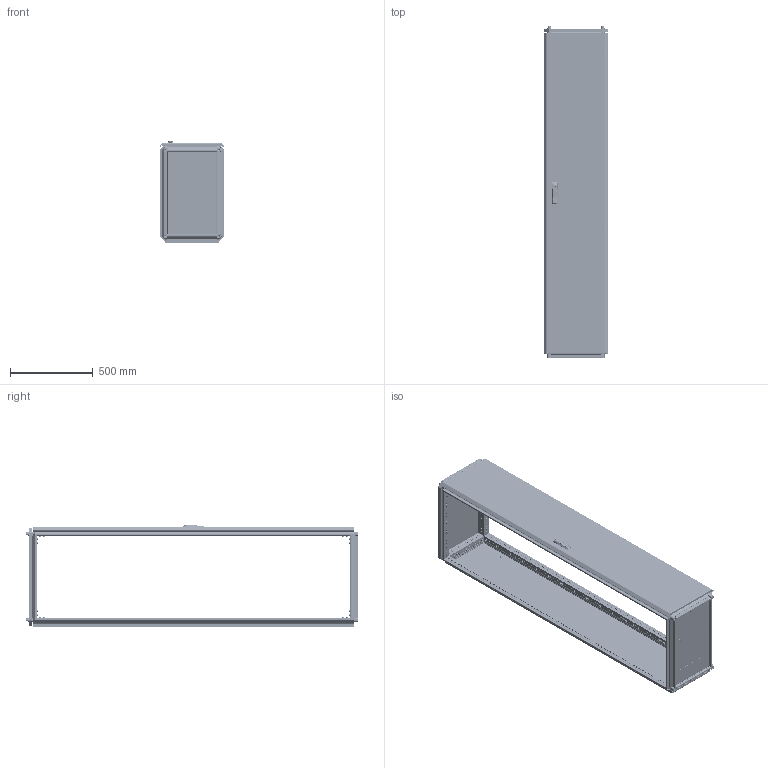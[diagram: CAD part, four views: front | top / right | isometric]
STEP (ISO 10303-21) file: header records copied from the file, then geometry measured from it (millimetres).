
FILE_DESCRIPTION (( 'STEP AP203' ), '1' );
FILE_NAME ('MA1.000.040620.10.00 AleSta2046 Øêàô AleSta 400õ600õ2000.STEP', '2024-08-23T08:22:21', ( '' ), ( '' ), 'SwSTEP 2.0', 'SolidWorks 2021', '' );
FILE_SCHEMA (( 'CONFIG_CONTROL_DESIGN' ));
Length unit declared in the file: millimetre
Products named in the file (50): MA1.102.060620.00.00 AleSta-VG2000 Ñòîéêè âåðòèêàëüíûå, Â=2000ìì  (4øò)_400å600; 7380-2 ISO Âèíòû ñ ïîëóêðóãëîé ãîëîâêîé ñ ôëàíöåì ñ âíóòðåííèì øåñòèãðàííèêîì Ì4õ10; Îñü ïåòëè 4õ52_‚¨­â A.M4x0,5x40 ƒŽ‘’ 11644-75; MA1.200.060620.11.01 Ïîëîòíî çàäíåé ïàíåëè 2000õ600_2000å400; MA1.000.040620.10.00 AleSta2046 Øêàô AleSta 400õ600õ2000; Âèíò ñàìîíàðåçàþùèé ñ ïîòàéíîé ãîëîâêîé Ì5x14 DIN 7500 M TORX, êëàññ ïðî÷íîñòè 8.8, îöèíêîâàííàÿ ñòàëü_Œ5å14; MA1.200.060620.31.01 Ïîëîòíî äâåðè ñïëîøíîé 2000õ600_2000å400; äåðæàòåëü_êðóãëîé_òÿãèRG002-RG1010-2-i-RG1010-3-.stp; Âèíò ñàìîíàðåçàþùèé ñ ïîòàéíîé ãîëîâêîé Ì5x14 DIN 7500 M TORX, êëàññ ïðî÷íîñòè 8.8, îöèíêîâàííàÿ ñòàëü_Œ5å12; MA1.101.060620.20.02 Çàêðûòèå íèæíåé ïàíåëè 600õ600_400å600; MA1.200.060620.31.05 Óãëîâîé óïîð äâåðíîé òÿãè; MA1.200.060620.31.04 ðèãåëü çàìêà äâåðè; Øïèëüêà Ì6õ12_˜¯¨«ìª  Œ6å20; MA1.200.060620.31.02 Ðåéêà íà äâåðü âåðòèêàëüíàÿ Â = 2000_‚ =2000; Íàâåñêà íà êîðïóñ ïîä êëåïêó; Øïèëüêà Ì6õ12_˜¯¨«ìª  Œ6å16; MA1.102.060620.00.01 Ïðîôèëü âåðòèêàëüíûé ñâàðíîé_04 L=1898 (‚=2000); Óïëîòíèòåëü ïàíåëè íèæíåé_400x600; MA1.100.060620.00.01 Ñîåäèíèòåëü óãëîâîé_00; Ãàéêà ñàìîêîíòðÿùàÿñÿ ñ íåéëîíîâîé âñòàâêîé Ì6 DIN 985, êëàññ ïðî÷íîñòè 8, îöèíêîâàííàÿ ñòàëü_Œ5; ﾘ琺矜 01.019 ﾃﾎﾑﾒ11371-78_12; MA1.200.060620.31.00 Äâåðü ñïëîøíàÿ äëÿ øêàôîâ ALESTA ÂõØ 2000õ600_2000å400; Âèíò ñ âí. øåñòèãðàííèêîì M12 DIN912_•30; MA1.200.060620.30.00 AleSta-D20M600 Äâåðü ñïëîøíàÿ äëÿ øêàôîâ ALESTA ÂõØ 2000õ600_2000å400; MA1.101.060620.20.01 Ïîëîòíî íèæíåé ïàíåëè 600õ600_400å600; òÿãà_lg001-2.STEP_‚=2000; Âèíò_ðåçüáîâûäàâëèâàþùèé_Ì5õ12_DIN 7500E_Œ5å12; ﾘ琺矜 65ﾃ 019 ﾃﾎﾑﾒ 6402-70_12; Âèíò ðåçüáîâûäàâëèâàþùèé Ì6õ12 DIN 7500E_Œ6å10; Ïåòëÿ íà äâåðü ï-îáðàçíàÿ; MA1.200.060620.10.00 AleSta-PR206  Ïàíåëü çàäíÿÿ, äëÿ øêàôîâ ALESTA, 2000 x 600_2000å400; ﾇﾀﾊﾋﾅﾏﾊﾀ ﾃﾀﾅﾗﾍﾀﾟ ﾘﾅﾑﾒﾈﾃﾐﾀﾍﾍﾀﾟ ﾑ ﾓﾌﾅﾍﾜﾘﾅﾍﾍﾛﾌ ﾁﾎﾐﾒﾎﾌ M4 X 11 (0.5-2.5 ﾌﾌ) HEX U-S ﾖﾈﾍﾊ; êðåïëåíèå_êðóãëîé_òÿãè_RG1020-1.stp; MA1.101.060620.00.02 Ïðîôèëü ïîïåðå÷íûé ñâàðíîé_00 L=298 (˜=400); Âèíò_ðåçüáîâûäàâëèâàþùèé_Ì5õ12_DIN 7500E_00; Øïèëüêà Ì6õ12_˜¯¨«ìª  Œ6å12; Áîëò øåñòèãðàííûé Ì5õ12 DIN 933, êëàññ ïðî÷íîñòè 8.8, îöèíêîâàííàÿ ñòàëü; Ïðîáêà ïëàñòèêîâàÿ óíèâåðñàëüíàÿ ïîä îòâåðñòèå 4,5 ìì, ñåðèÿ ST, öâåò áåñöâåòíûé – ST4,5; MA1.101.060620.20.00 Íèæíÿÿ ïàíåëü 600õ600_400å600; Ãàéêà ñàìîêîíòðÿùàÿñÿ ñ íåéëîíîâîé âñòàâêîé Ì6 DIN 985, êëàññ ïðî÷íîñòè 8, îöèíêîâàííàÿ ñòàëü_Œ6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
Assembly tree (337 placements, depth 4):
  MA1.000.040620.10.00 AleSta2046 Øêàô AleSta 400õ600õ2000
    MA1.101.060620.00.00 AleSta-RB66 Êîìïëåêò êðûøà è îñíîâàíèå_400å600
      MA1.101.060620.00.02 Ïðîôèëü ïîïåðå÷íûé ñâàðíîé_01 L=498 (˜=600)  x4
      MA1.101.060620.00.02 Ïðîôèëü ïîïåðå÷íûé ñâàðíîé_00 L=298 (˜=400)  x4
      MA1.101.060620.10.00 ﾊ 600x600_400x600
        MA1.101.060620.10.01 Ïîëîòíî êðûøè 600õ600_400å600
        Øïèëüêà Ì6õ12_˜¯¨«ìª  Œ6å12  x4
        Óïëîòíèòåëü ïàíåëè íèæíåé_400x600
      MA1.101.060620.20.00 Íèæíÿÿ ïàíåëü 600õ600_400å600
        MA1.101.060620.20.01 Ïîëîòíî íèæíåé ïàíåëè 600õ600_400å600
        ﾇﾀﾊﾋﾅﾏﾊﾀ ﾃﾀﾅﾗﾍﾀﾟ ﾘﾅﾑﾒﾈﾃﾐﾀﾍﾍﾀﾟ ﾑ ﾓﾌﾅﾍﾜﾘﾅﾍﾍﾛﾌ ﾁﾎﾐﾒﾎﾌ M4 X 11 (0.5-2.5 ﾌﾌ) HEX U-S ﾖﾈﾍﾊ  x4
        MA1.101.060620.20.02 Çàêðûòèå íèæíåé ïàíåëè 600õ600_400å600  x2
        7380-2 ISO Âèíòû ñ ïîëóêðóãëîé ãîëîâêîé ñ ôëàíöåì ñ âíóòðåííèì øåñòèãðàííèêîì Ì4õ10  x4
      Âèíò_ðåçüáîâûäàâëèâàþùèé_Ì5õ12_DIN 7500E_Œ5å12  x8
      MA1.100.060620.00.01 Ñîåäèíèòåëü óãëîâîé_00  x8
      Âèíò ñ âí. øåñòèãðàííèêîì M12 DIN912_•30  x4
      Âèíò ðåçüáîâûäàâëèâàþùèé Ì6õ12 DIN 7500E_Œ6å10  x96
      ﾘ琺矜 01.019 ﾃﾎﾑﾒ11371-78_12  x4
      ﾘ琺矜 65ﾃ 019 ﾃﾎﾑﾒ 6402-70_12  x4
      Øàéáà ñòîïîðíàÿ ñ íàðóæíûìè çóáöàìè SCHNORR, òèï VS öèíêîâûå õëîïüÿ Ì6 O6,4 ART 88121_Œ6  x80
    MA1.102.060620.00.00 AleSta-VG2000 Ñòîéêè âåðòèêàëüíûå, Â=2000ìì  (4øò)_400å600
      MA1.102.060620.00.01 Ïðîôèëü âåðòèêàëüíûé ñâàðíîé_04 L=1898 (‚=2000)  x4
    MA1.200.060620.10.00 AleSta-PR206  Ïàíåëü çàäíÿÿ, äëÿ øêàôîâ ALESTA, 2000 x 600_2000å400
      MA1.200.060620.11.00 Ïàíåëü çàäíÿÿ, äëÿ øêàôîâ AleSta, 2000x600_2000å400
        MA1.200.060620.11.01 Ïîëîòíî çàäíåé ïàíåëè 2000õ600_2000å400
        Óïëîòíèòåëü ïàíåëè íèæíåé_  ‚=2000
        Øïèëüêà Ì6õ12_˜¯¨«ìª  Œ6å12  x4
      Âèíò ñàìîíàðåçàþùèé ñ ïîòàéíîé ãîëîâêîé Ì5x14 DIN 7500 M TORX, êëàññ ïðî÷íîñòè 8.8, îöèíêîâàííàÿ ñòàëü_Œ5å14  x8
    MA1.200.060620.30.00 AleSta-D20M600 Äâåðü ñïëîøíàÿ äëÿ øêàôîâ ALESTA ÂõØ 2000õ600_2000å400
      MA1.200.060620.31.00 Äâåðü ñïëîøíàÿ äëÿ øêàôîâ ALESTA ÂõØ 2000õ600_2000å400
        MA1.200.060620.31.01 Ïîëîòíî äâåðè ñïëîøíîé 2000õ600_2000å400
        Óïëîòíèòåëü ïàíåëè íèæíåé_  ‚=2000
        Øïèëüêà Ì6õ12_˜¯¨«ìª  Œ6å20  x16
        Øïèëüêà Ì6õ12_˜¯¨«ìª  Œ6å16  x4
        Ïåòëÿ íà äâåðü ï-îáðàçíàÿ  x4
      MA1.200.060620.31.03 Ðåéêà íà äâåðü ãîðèçîíòàëüíàÿ Ø = 600_˜=400  x2
      諘蜱齁罻 022 瀁錒瀔隮  x4
      MA1.200.060620.31.02 Ðåéêà íà äâåðü âåðòèêàëüíàÿ Â = 2000_‚ =2000  x2
      äåðæàòåëü_êðóãëîé_òÿãèRG002-RG1010-2-i-RG1010-3-.stp  x2
      òÿãà_lg001-2.STEP_‚=2000  x2
      êðåïëåíèå_êðóãëîé_òÿãè_RG1020-1.stp  x2
      MS463-2-3(1)
      Ãàéêà ñàìîêîíòðÿùàÿñÿ ñ íåéëîíîâîé âñòàâêîé Ì6 DIN 985, êëàññ ïðî÷íîñòè 8, îöèíêîâàííàÿ ñòàëü_Œ6  x16
      Ãàéêà ñàìîêîíòðÿùàÿñÿ ñ íåéëîíîâîé âñòàâêîé Ì6 DIN 985, êëàññ ïðî÷íîñòè 8, îöèíêîâàííàÿ ñòàëü_Œ5  x2
      Áîëò øåñòèãðàííûé Ì5õ12 DIN 933, êëàññ ïðî÷íîñòè 8.8, îöèíêîâàííàÿ ñòàëü  x2
      MA1.200.060620.31.04 ðèãåëü çàìêà äâåðè
      MA1.200.060620.31.05 Óãëîâîé óïîð äâåðíîé òÿãè  x2
      Âèíò_ðåçüáîâûäàâëèâàþùèé_Ì5õ12_DIN 7500E_00  x2
      Íàâåñêà íà êîðïóñ ïîä êëåïêó  x4
      Îñü ïåòëè 4õ52_‚¨­â A.M4x0,5x40 ƒŽ‘’ 11644-75  x4
      Âèíò ñàìîíàðåçàþùèé ñ ïîòàéíîé ãîëîâêîé Ì5x14 DIN 7500 M TORX, êëàññ ïðî÷íîñòè 8.8, îöèíêîâàííàÿ ñòàëü_Œ5å12  x8
  Ïðîáêà ïëàñòèêîâàÿ óíèâåðñàëüíàÿ ïîä îòâåðñòèå 4,5 ìì, ñåðèÿ ST, öâåò áåñöâåòíûé – ST4,5
Bounding box: 392 x 2010.9 x 616.8 mm (x, y, z)
Volume: 7590248.4 mm3; surface area: 9182493.5 mm2
Topology: 364 solids, 378 shells, 23403 faces, 60246 edges, 37672 vertices
Faces by surface type: plane 13993, cylinder 6717, bspline 921, cone 845, torus 829, sphere 98
Entity records: 245944 total; most frequent: CARTESIAN_POINT 79369, ORIENTED_EDGE 31826, DIRECTION 31312, EDGE_CURVE 15930, AXIS2_PLACEMENT_3D 10752, VERTEX_POINT 9917, LINE 9808, VECTOR 9808
